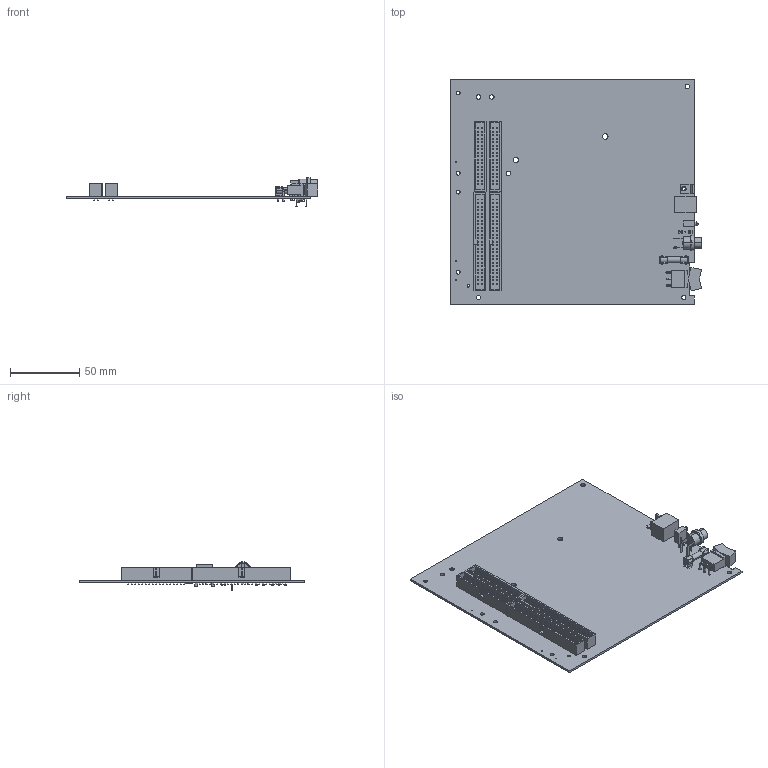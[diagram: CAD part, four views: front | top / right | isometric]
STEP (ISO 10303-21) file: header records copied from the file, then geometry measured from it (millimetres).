
FILE_DESCRIPTION((''),'2;1');
FILE_NAME('CU_USB_OEM_6229-6259','2007-08-29T',('jpearson'),(''),'PRO/ENGINEER BY PARAMETRIC TECHNOLOGY CORPORATION, 2006080','PRO/ENGINEER BY PARAMETRIC TECHNOLOGY CORPORATION, 2006080','');
FILE_SCHEMA(('CONFIG_CONTROL_DESIGN'));
Length unit declared in the file: inch
Products named in the file (1): CU_USB_OEM_6229-6259
Bounding box: 181.99 x 162.56 x 20.88 mm (x, y, z)
Volume: 61282.4 mm3; surface area: 74934.7 mm2
Topology: 1 solids, 1 shells, 2183 faces, 5380 edges, 3559 vertices
Faces by surface type: plane 1995, cylinder 172, torus 12, sphere 4
Entity records: 63582 total; most frequent: CARTESIAN_POINT 11157, ORIENTED_EDGE 10752, DIRECTION 10154, EDGE_CURVE 5376, VECTOR 4948, LINE 4948, VERTEX_POINT 3562, EDGE_LOOP 2620
